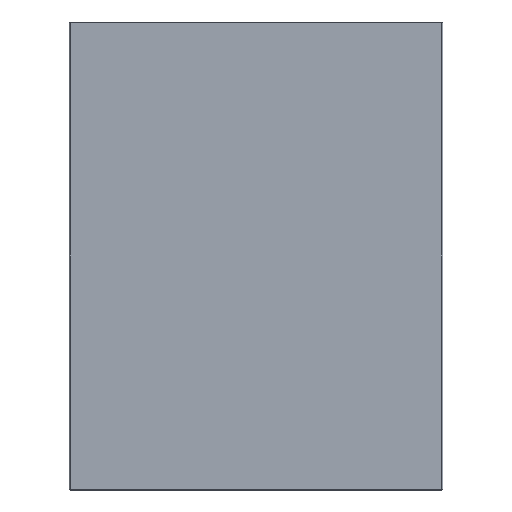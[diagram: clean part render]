
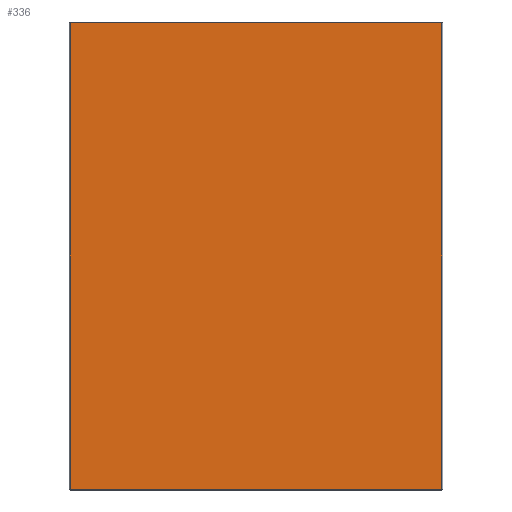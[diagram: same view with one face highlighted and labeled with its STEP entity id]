
A CAD part, front view. The second image highlights one B-rep face of the part: STEP entity #336.
In plain terms, the highlighted planar face has unit normal (0, -1, 0).
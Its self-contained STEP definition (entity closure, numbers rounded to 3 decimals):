
#25 = DIRECTION ( 'NONE',  ( 0., 0., 1. ) ) ;
#34 = VERTEX_POINT ( 'NONE', #603 ) ;
#38 = LINE ( 'NONE', #238, #52 ) ;
#52 = VECTOR ( 'NONE', #244, 1000. ) ;
#53 = EDGE_CURVE ( 'NONE', #283, #162, #38, .T. ) ;
#62 = ORIENTED_EDGE ( 'NONE', *, *, #445, .T. ) ;
#162 = VERTEX_POINT ( 'NONE', #465 ) ;
#194 = AXIS2_PLACEMENT_3D ( 'NONE', #245, #476, #403 ) ;
#195 = LINE ( 'NONE', #322, #296 ) ;
#202 = CARTESIAN_POINT ( 'NONE',  ( 197., 0., 247. ) ) ;
#203 = EDGE_CURVE ( 'NONE', #162, #477, #195, .T. ) ;
#214 = ORIENTED_EDGE ( 'NONE', *, *, #453, .T. ) ;
#238 = CARTESIAN_POINT ( 'NONE',  ( 0., 0., 247. ) ) ;
#244 = DIRECTION ( 'NONE',  ( -1., 0., 0. ) ) ;
#245 = CARTESIAN_POINT ( 'NONE',  ( 0., 0., 0. ) ) ;
#255 = FACE_OUTER_BOUND ( 'NONE', #505, .T. ) ;
#283 = VERTEX_POINT ( 'NONE', #202 ) ;
#296 = VECTOR ( 'NONE', #372, 1000. ) ;
#297 = CARTESIAN_POINT ( 'NONE',  ( 0., 0., -247. ) ) ;
#322 = CARTESIAN_POINT ( 'NONE',  ( -197., 0., 0. ) ) ;
#336 = ADVANCED_FACE ( 'NONE', ( #255 ), #360, .F. ) ;
#360 = PLANE ( 'NONE',  #194 ) ;
#372 = DIRECTION ( 'NONE',  ( 0., 0., -1. ) ) ;
#388 = ORIENTED_EDGE ( 'NONE', *, *, #203, .T. ) ;
#403 = DIRECTION ( 'NONE',  ( 0., 0., 1. ) ) ;
#421 = LINE ( 'NONE', #592, #507 ) ;
#445 = EDGE_CURVE ( 'NONE', #34, #283, #421, .T. ) ;
#453 = EDGE_CURVE ( 'NONE', #477, #34, #508, .T. ) ;
#465 = CARTESIAN_POINT ( 'NONE',  ( -197., 0., 247. ) ) ;
#476 = DIRECTION ( 'NONE',  ( 0., 1., 0. ) ) ;
#477 = VERTEX_POINT ( 'NONE', #644 ) ;
#505 = EDGE_LOOP ( 'NONE', ( #62, #597, #388, #214 ) ) ;
#507 = VECTOR ( 'NONE', #25, 1000. ) ;
#508 = LINE ( 'NONE', #297, #640 ) ;
#558 = DIRECTION ( 'NONE',  ( 1., 0., 0. ) ) ;
#592 = CARTESIAN_POINT ( 'NONE',  ( 197., 0., 0. ) ) ;
#597 = ORIENTED_EDGE ( 'NONE', *, *, #53, .T. ) ;
#603 = CARTESIAN_POINT ( 'NONE',  ( 197., 0., -247. ) ) ;
#640 = VECTOR ( 'NONE', #558, 1000. ) ;
#644 = CARTESIAN_POINT ( 'NONE',  ( -197., 0., -247. ) ) ;
